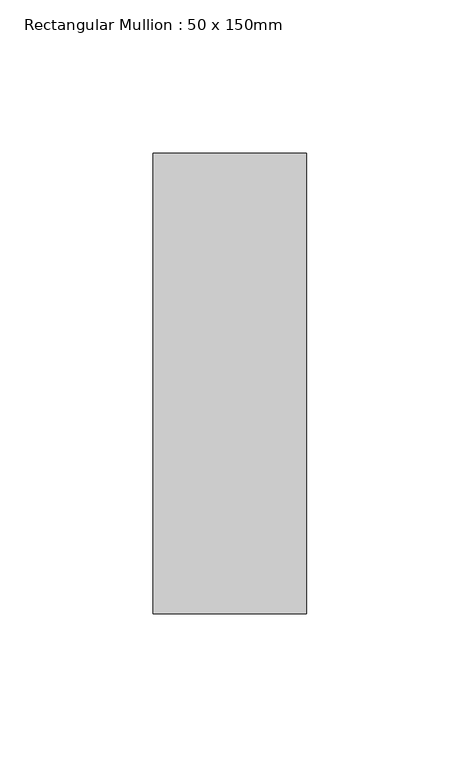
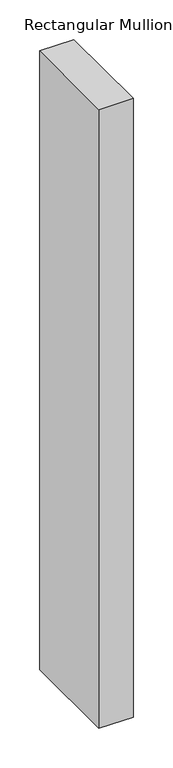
"""IFC4 building model written with IfcOpenShell, lengths in millimetres: member geometry, Rectangular Mullion : 50 x 150mm."""

from ifc_helpers import new_model, si_unit, frame, origin, place, context, project, spatial, polyline, outline, extrude, source, transform, mapped, element, save


def rectangular_mullion_50_x_150mm_8e5675d2(model_context):
    return source(origin(), model_context, "Body", "SweptSolid", [
        extrude(outline(polyline([(25.0, 75.0), (25.0, -75.0), (-25.0, -75.0), (-25.0, 75.0), (25.0, 75.0)])), frame((0.0, 0.0, -954.8719395), z_axis=(0.0, 0.0, 1.0), x_axis=(1.0, 0.0, 0.0)), (0.0, 0.0, 1.0), 954.8719395),
    ])


if __name__ == "__main__":
    model = new_model("IFC4")
    model_context = context("Model", 3, world=origin())
    ifc_project = project(units=[si_unit("LENGTHUNIT", "METRE", prefix="MILLI")], contexts=[model_context])
    site = spatial("IfcSite", under=ifc_project)
    building = spatial("IfcBuilding", under=site)
    placement = place(None, origin())
    rectangular_mullion_50_x_150mm_shape = rectangular_mullion_50_x_150mm_8e5675d2(model_context)
    element("IfcMember", 1, ObjectType="Rectangular Mullion : 50 x 150mm", at=placement, inside=building, context=model_context, shape_type="MappedRepresentation", body=[
        mapped(rectangular_mullion_50_x_150mm_shape, transform((0.0, 0.0, 0.0), x_axis=(1.0, 0.0, 0.0), y_axis=(0.0, 1.0, 0.0), z_axis=(0.0, 0.0, 1.0))),
    ])
    save(model, "model.ifc")
